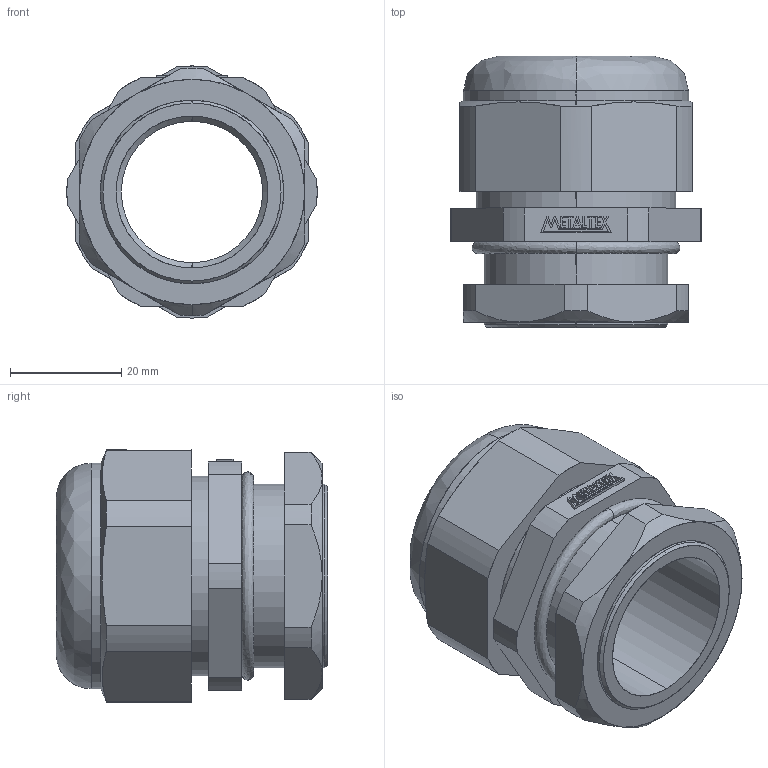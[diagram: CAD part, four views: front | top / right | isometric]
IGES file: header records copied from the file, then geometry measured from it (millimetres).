
Start section: SolidWorks IGES file using analytic representation for surfaces
Global section: file name: D:\X - Arquivos\PROEX\Empresas\P11 - METALTEX\01 - Produtos\IGES\Terceira remessa\Etapa 2\CH-B1-25.IGS; native system: SolidWorks 2012; preprocessor: SolidWorks 2012; author: Usuario; date: 180207.125023; units: millimetre
Bounding box: 45 x 48.8 x 45.3 mm (x, y, z)
Surface area: 14096.5 mm2 (no closed solid volume)
Topology: 0 solids, 0 shells, 174 faces, 1559 edges, 1559 vertices
Faces by surface type: bspline 125, revolution 49
